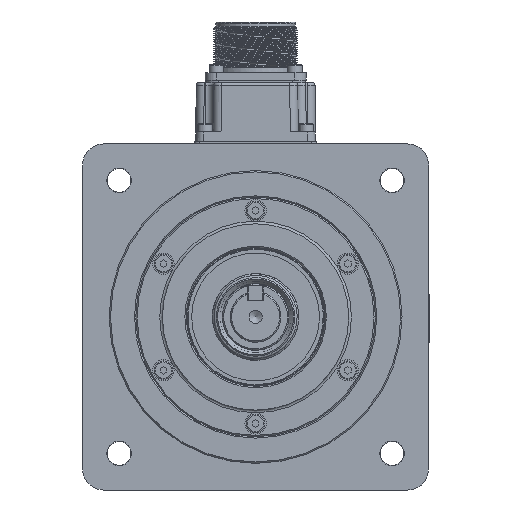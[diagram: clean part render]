
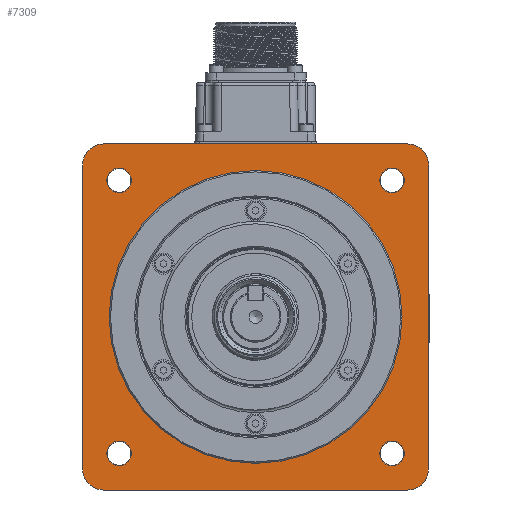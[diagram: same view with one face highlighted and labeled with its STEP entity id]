
A CAD part, front view. The second image highlights one B-rep face of the part: STEP entity #7309.
In plain terms, the highlighted planar face has unit normal (0, -1, 0).
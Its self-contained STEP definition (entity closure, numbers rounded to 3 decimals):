
#7309 = ADVANCED_FACE( '', ( #15497, #15498, #15499, #15500, #15501, #15502 ), #15503, .F. );
#15497 = FACE_BOUND( '', #36843, .T. );
#15498 = FACE_OUTER_BOUND( '', #36844, .T. );
#15499 = FACE_BOUND( '', #36845, .T. );
#15500 = FACE_BOUND( '', #36846, .T. );
#15501 = FACE_BOUND( '', #36847, .T. );
#15502 = FACE_BOUND( '', #36848, .T. );
#15503 = PLANE( '', #36849 );
#36843 = EDGE_LOOP( '', ( #58590 ) );
#36844 = EDGE_LOOP( '', ( #58591, #58592, #58593, #58594, #58595, #58596, #58597, #58598 ) );
#36845 = EDGE_LOOP( '', ( #58599 ) );
#36846 = EDGE_LOOP( '', ( #58600 ) );
#36847 = EDGE_LOOP( '', ( #58601 ) );
#36848 = EDGE_LOOP( '', ( #58602 ) );
#36849 = AXIS2_PLACEMENT_3D( '', #58603, #58604, #58605 );
#58590 = ORIENTED_EDGE( '', *, *, #67403, .F. );
#58591 = ORIENTED_EDGE( '', *, *, #64769, .F. );
#58592 = ORIENTED_EDGE( '', *, *, #67642, .T. );
#58593 = ORIENTED_EDGE( '', *, *, #60833, .F. );
#58594 = ORIENTED_EDGE( '', *, *, #67643, .T. );
#58595 = ORIENTED_EDGE( '', *, *, #66903, .F. );
#58596 = ORIENTED_EDGE( '', *, *, #67644, .T. );
#58597 = ORIENTED_EDGE( '', *, *, #65157, .F. );
#58598 = ORIENTED_EDGE( '', *, *, #67645, .T. );
#58599 = ORIENTED_EDGE( '', *, *, #67390, .F. );
#58600 = ORIENTED_EDGE( '', *, *, #60754, .F. );
#58601 = ORIENTED_EDGE( '', *, *, #66863, .F. );
#58602 = ORIENTED_EDGE( '', *, *, #67120, .F. );
#58603 = CARTESIAN_POINT( '', ( 0., -39.5, 55. ) );
#58604 = DIRECTION( '', ( 0., 1., 0. ) );
#58605 = DIRECTION( '', ( 0., 0., 1. ) );
#60754 = EDGE_CURVE( '', #70766, #70766, #70767, .F. );
#60833 = EDGE_CURVE( '', #70899, #70901, #70902, .F. );
#64769 = EDGE_CURVE( '', #77086, #77089, #77090, .F. );
#65157 = EDGE_CURVE( '', #77597, #77599, #77600, .F. );
#66863 = EDGE_CURVE( '', #79792, #79792, #79793, .F. );
#66903 = EDGE_CURVE( '', #79829, #79831, #79832, .F. );
#67120 = EDGE_CURVE( '', #80072, #80072, #80073, .F. );
#67390 = EDGE_CURVE( '', #80372, #80372, #80373, .F. );
#67403 = EDGE_CURVE( '', #80386, #80386, #80387, .T. );
#67642 = EDGE_CURVE( '', #77086, #70901, #80630, .T. );
#67643 = EDGE_CURVE( '', #70899, #79831, #80631, .T. );
#67644 = EDGE_CURVE( '', #79829, #77599, #80632, .T. );
#67645 = EDGE_CURVE( '', #77597, #77089, #80633, .T. );
#70766 = VERTEX_POINT( '', #87363 );
#70767 = CIRCLE( '', #87364, 4.6 );
#70899 = VERTEX_POINT( '', #87624 );
#70901 = VERTEX_POINT( '', #87627 );
#70902 = CIRCLE( '', #87628, 8. );
#77086 = VERTEX_POINT( '', #102629 );
#77089 = VERTEX_POINT( '', #102633 );
#77090 = CIRCLE( '', #102634, 8. );
#77597 = VERTEX_POINT( '', #103711 );
#77599 = VERTEX_POINT( '', #103714 );
#77600 = CIRCLE( '', #103715, 8. );
#79792 = VERTEX_POINT( '', #108574 );
#79793 = CIRCLE( '', #108575, 4.6 );
#79829 = VERTEX_POINT( '', #108622 );
#79831 = VERTEX_POINT( '', #108625 );
#79832 = CIRCLE( '', #108626, 8. );
#80072 = VERTEX_POINT( '', #108959 );
#80073 = CIRCLE( '', #108960, 4.6 );
#80372 = VERTEX_POINT( '', #109382 );
#80373 = CIRCLE( '', #109383, 4.6 );
#80386 = VERTEX_POINT( '', #109399 );
#80387 = CIRCLE( '', #109400, 55. );
#80630 = LINE( '', #109680, #109681 );
#80631 = LINE( '', #109682, #109683 );
#80632 = LINE( '', #109684, #109685 );
#80633 = LINE( '', #109686, #109687 );
#87363 = CARTESIAN_POINT( '', ( -51.265, -39.5, -46.665 ) );
#87364 = AXIS2_PLACEMENT_3D( '', #114359, #114360, #114361 );
#87624 = CARTESIAN_POINT( '', ( -57., -39.5, -65. ) );
#87627 = CARTESIAN_POINT( '', ( -65., -39.5, -57. ) );
#87628 = AXIS2_PLACEMENT_3D( '', #114444, #114445, #114446 );
#102629 = CARTESIAN_POINT( '', ( -65., -39.5, 57. ) );
#102633 = CARTESIAN_POINT( '', ( -57., -39.5, 65. ) );
#102634 = AXIS2_PLACEMENT_3D( '', #118683, #118684, #118685 );
#103711 = CARTESIAN_POINT( '', ( 57., -39.5, 65. ) );
#103714 = CARTESIAN_POINT( '', ( 65., -39.5, 57. ) );
#103715 = AXIS2_PLACEMENT_3D( '', #119067, #119068, #119069 );
#108574 = CARTESIAN_POINT( '', ( 51.265, -39.5, -46.665 ) );
#108575 = AXIS2_PLACEMENT_3D( '', #120575, #120576, #120577 );
#108622 = CARTESIAN_POINT( '', ( 65., -39.5, -57. ) );
#108625 = CARTESIAN_POINT( '', ( 57., -39.5, -65. ) );
#108626 = AXIS2_PLACEMENT_3D( '', #120596, #120597, #120598 );
#108959 = CARTESIAN_POINT( '', ( 51.265, -39.5, 55.866 ) );
#108960 = AXIS2_PLACEMENT_3D( '', #120749, #120750, #120751 );
#109382 = CARTESIAN_POINT( '', ( -51.265, -39.5, 55.866 ) );
#109383 = AXIS2_PLACEMENT_3D( '', #120905, #120906, #120907 );
#109399 = CARTESIAN_POINT( '', ( 0., -39.5, -55. ) );
#109400 = AXIS2_PLACEMENT_3D( '', #120911, #120912, #120913 );
#109680 = CARTESIAN_POINT( '', ( -65., -39.5, 65. ) );
#109681 = VECTOR( '', #121002, 1000. );
#109682 = CARTESIAN_POINT( '', ( -65., -39.5, -65. ) );
#109683 = VECTOR( '', #121003, 1000. );
#109684 = CARTESIAN_POINT( '', ( 65., -39.5, -65. ) );
#109685 = VECTOR( '', #121004, 1000. );
#109686 = CARTESIAN_POINT( '', ( 65., -39.5, 65. ) );
#109687 = VECTOR( '', #121005, 1000. );
#114359 = CARTESIAN_POINT( '', ( -51.265, -39.5, -51.265 ) );
#114360 = DIRECTION( '', ( 0., 1., 0. ) );
#114361 = DIRECTION( '', ( 0., 0., 1. ) );
#114444 = CARTESIAN_POINT( '', ( -57., -39.5, -57. ) );
#114445 = DIRECTION( '', ( 0., -1., 0. ) );
#114446 = DIRECTION( '', ( 0., 0., -1. ) );
#118683 = CARTESIAN_POINT( '', ( -57., -39.5, 57. ) );
#118684 = DIRECTION( '', ( 0., -1., 0. ) );
#118685 = DIRECTION( '', ( 0., 0., -1. ) );
#119067 = CARTESIAN_POINT( '', ( 57., -39.5, 57. ) );
#119068 = DIRECTION( '', ( 0., -1., 0. ) );
#119069 = DIRECTION( '', ( 0., 0., -1. ) );
#120575 = CARTESIAN_POINT( '', ( 51.265, -39.5, -51.265 ) );
#120576 = DIRECTION( '', ( 0., 1., 0. ) );
#120577 = DIRECTION( '', ( 0., 0., 1. ) );
#120596 = CARTESIAN_POINT( '', ( 57., -39.5, -57. ) );
#120597 = DIRECTION( '', ( 0., -1., 0. ) );
#120598 = DIRECTION( '', ( 0., 0., -1. ) );
#120749 = CARTESIAN_POINT( '', ( 51.265, -39.5, 51.265 ) );
#120750 = DIRECTION( '', ( 0., 1., 0. ) );
#120751 = DIRECTION( '', ( 0., 0., 1. ) );
#120905 = CARTESIAN_POINT( '', ( -51.265, -39.5, 51.265 ) );
#120906 = DIRECTION( '', ( 0., 1., 0. ) );
#120907 = DIRECTION( '', ( 0., 0., 1. ) );
#120911 = CARTESIAN_POINT( '', ( 0., -39.5, 0. ) );
#120912 = DIRECTION( '', ( 0., -1., 0. ) );
#120913 = DIRECTION( '', ( 0., 0., -1. ) );
#121002 = DIRECTION( '', ( 0., 0., -1. ) );
#121003 = DIRECTION( '', ( 1., 0., 0. ) );
#121004 = DIRECTION( '', ( 0., 0., 1. ) );
#121005 = DIRECTION( '', ( -1., 0., 0. ) );
